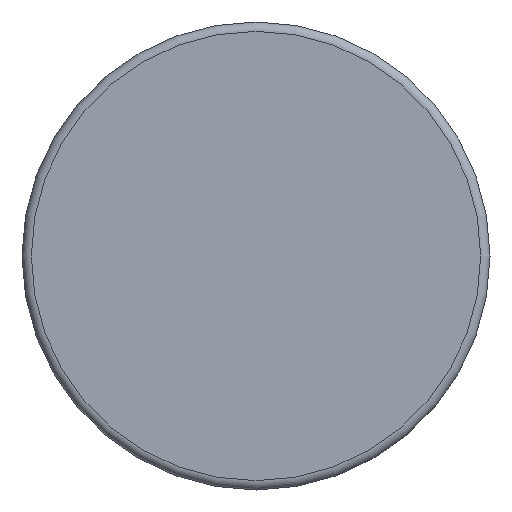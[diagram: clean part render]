
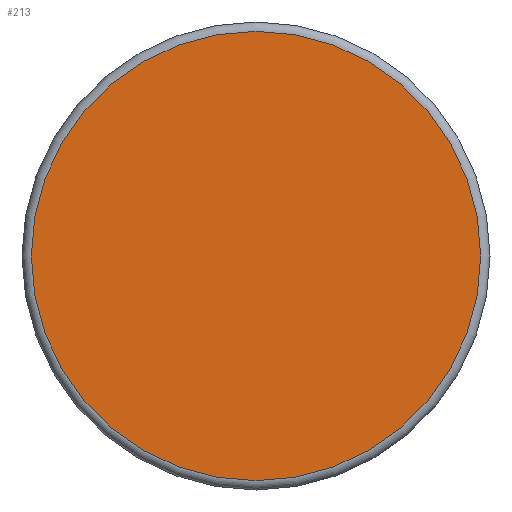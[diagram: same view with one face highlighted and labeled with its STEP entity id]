
A CAD part, front view. The second image highlights one B-rep face of the part: STEP entity #213.
In plain terms, the highlighted planar face has unit normal (0, -1, 0).
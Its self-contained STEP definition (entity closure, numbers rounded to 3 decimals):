
#213 = ADVANCED_FACE( '', ( #413 ), #414, .F. );
#413 = FACE_OUTER_BOUND( '', #613, .T. );
#414 = PLANE( '', #614 );
#613 = EDGE_LOOP( '', ( #958 ) );
#614 = AXIS2_PLACEMENT_3D( '', #959, #960, #961 );
#958 = ORIENTED_EDGE( '', *, *, #1119, .T. );
#959 = CARTESIAN_POINT( '', ( 24., 0., 0. ) );
#960 = DIRECTION( '', ( 0., 1., 0. ) );
#961 = DIRECTION( '', ( 0., 0., 1. ) );
#1119 = EDGE_CURVE( '', #1285, #1285, #1286, .T. );
#1285 = VERTEX_POINT( '', #1527 );
#1286 = CIRCLE( '', #1528, 24. );
#1527 = CARTESIAN_POINT( '', ( 0., 0., -24. ) );
#1528 = AXIS2_PLACEMENT_3D( '', #1998, #1999, #2000 );
#1998 = CARTESIAN_POINT( '', ( 0., 0., 0. ) );
#1999 = DIRECTION( '', ( 0., -1., 0. ) );
#2000 = DIRECTION( '', ( 0., 0., -1. ) );
